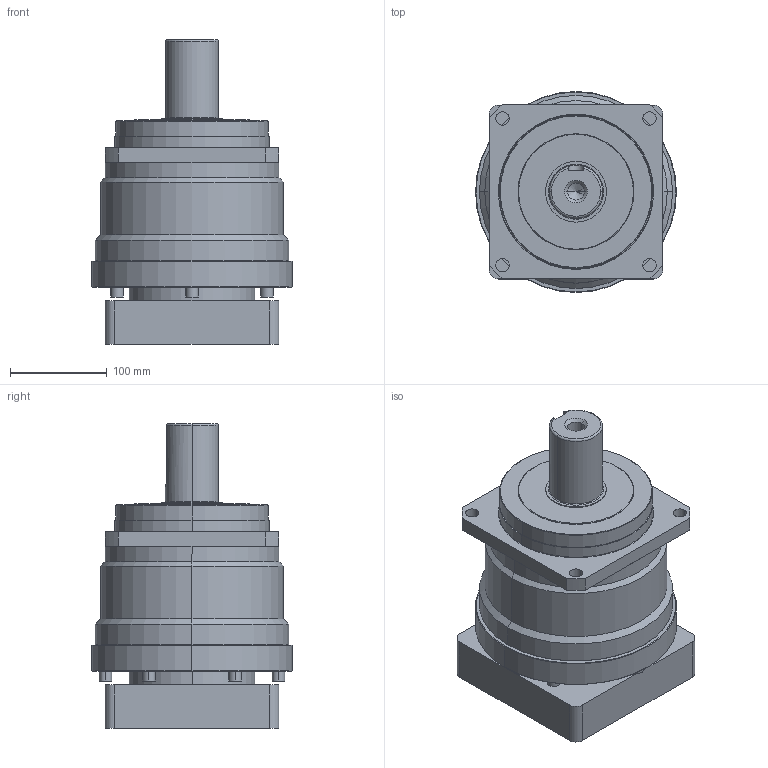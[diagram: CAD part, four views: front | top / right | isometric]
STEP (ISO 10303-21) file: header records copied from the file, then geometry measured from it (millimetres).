
FILE_DESCRIPTION (( 'STEP AP214' ), '1' );
FILE_NAME ('VRS180-L1-S2-P1 35-114.3-200-M12.STEP', '2023-09-01T05:32:11', ( '微软用户' ), ( '微软中国' ), 'SwSTEP 2.0', 'SolidWorks 2018', '' );
FILE_SCHEMA (( 'AUTOMOTIVE_DESIGN' ));
Length unit declared in the file: millimetre
Products named in the file (1): VRS180-L1-S2-P1 35-114.3-200-M12
Bounding box: 208 x 208 x 315.5 mm (x, y, z)
Volume: 6473100.5 mm3; surface area: 304834.3 mm2
Topology: 1 solids, 1 shells, 176 faces, 405 edges, 257 vertices
Faces by surface type: plane 83, cylinder 66, cone 20, torus 7
Entity records: 5111 total; most frequent: DIRECTION 917, CARTESIAN_POINT 912, ORIENTED_EDGE 806, EDGE_CURVE 403, AXIS2_PLACEMENT_3D 340, VERTEX_POINT 257, VECTOR 237, LINE 237
